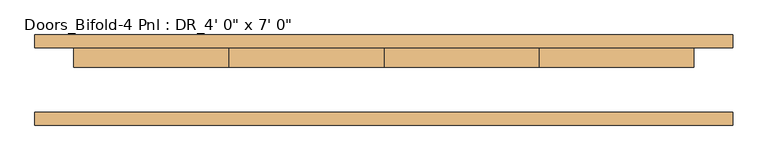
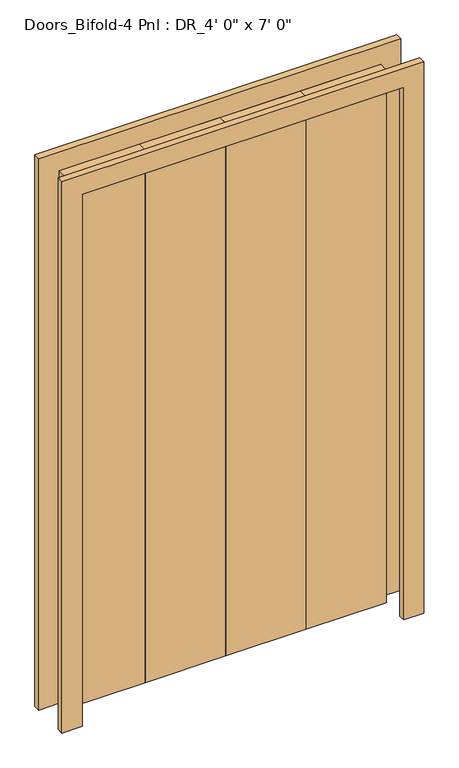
"""IFC4 building model written with IfcOpenShell, lengths in millimetres: door geometry."""

from ifc_helpers import new_model, si_unit, frame, origin, origin_with_axes, place, context, project, spatial, polyline, outline, extrude, source, transform, mapped, element, save


def door_bf6d1dde(model_context):
    return source(origin(), model_context, "Body", "SweptSolid", [
        extrude(outline(polyline([(0.0, 685.8), (2209.8, 685.8), (2209.8, -685.8), (0.0, -685.8), (0.0, -609.6), (2133.6, -609.6), (2133.6, 609.6), (0.0, 609.6), (0.0, 685.8)])), frame((0.0, -88.9, 0.0), z_axis=(0.0, 1.0, 0.0), x_axis=(0.0, 0.0, 1.0)), (0.0, 0.0, 1.0), 25.4),
        extrude(outline(polyline([(0.0, 685.8), (2209.8, 685.8), (2209.8, -685.8), (0.0, -685.8), (0.0, -609.6), (2133.6, -609.6), (2133.6, 609.6), (0.0, 609.6), (0.0, 685.8)])), frame((0.0, 63.5, 0.0), z_axis=(0.0, 1.0, 0.0), x_axis=(0.0, 0.0, 1.0)), (0.0, 0.0, 1.0), 25.4),
        extrude(outline(polyline([(-609.6, 63.5), (-304.8, 63.5), (-304.8, 25.4), (-609.6, 25.4), (-609.6, 63.5)])), origin_with_axes(), (0.0, 0.0, 1.0), 2133.6),
        extrude(outline(polyline([(-304.8, 63.5), (0.0, 63.5), (0.0, 25.4), (-304.8, 25.4), (-304.8, 63.5)])), origin_with_axes(), (0.0, 0.0, 1.0), 2133.6),
        extrude(outline(polyline([(0.0, 63.5), (304.8, 63.5), (304.8, 25.4), (0.0, 25.4), (0.0, 63.5)])), origin_with_axes(), (0.0, 0.0, 1.0), 2133.6),
        extrude(outline(polyline([(304.8, 63.5), (609.6, 63.5), (609.6, 25.4), (304.8, 25.4), (304.8, 63.5)])), origin_with_axes(), (0.0, 0.0, 1.0), 2133.6),
    ])


if __name__ == "__main__":
    model = new_model("IFC4")
    model_context = context("Model", 3, world=origin())
    ifc_project = project(units=[si_unit("LENGTHUNIT", "METRE", prefix="MILLI")], contexts=[model_context])
    site = spatial("IfcSite", under=ifc_project)
    building = spatial("IfcBuilding", under=site)
    placement = place(None, origin())
    door_shape = door_bf6d1dde(model_context)
    element("IfcDoor", 1, ObjectType="Doors_Bifold-4 Pnl : DR_4' 0\" x 7' 0\"", at=placement, inside=building, context=model_context, shape_type="MappedRepresentation", body=[
        mapped(door_shape, transform((0.0, 0.0, 0.0), x_axis=(1.0, 0.0, 0.0), y_axis=(0.0, 1.0, 0.0), z_axis=(0.0, 0.0, 1.0))),
    ])
    save(model, "model.ifc")
